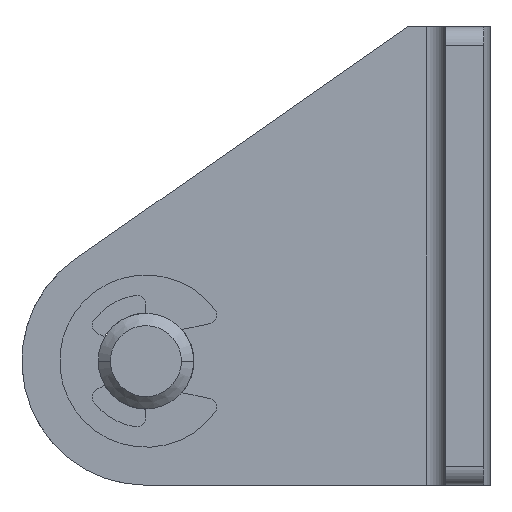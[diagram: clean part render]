
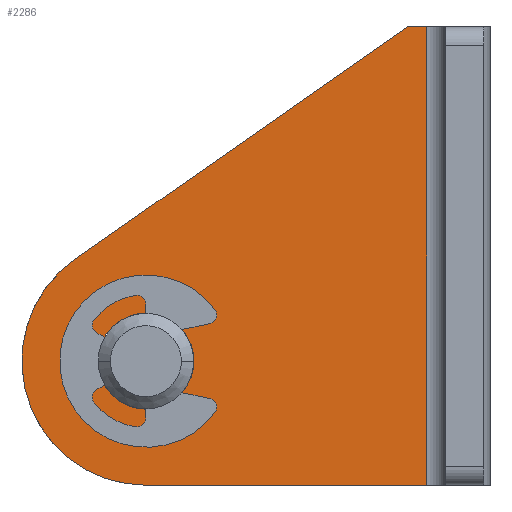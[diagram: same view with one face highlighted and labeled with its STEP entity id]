
A CAD part, left-side view. The second image highlights one B-rep face of the part: STEP entity #2286.
In plain terms, the highlighted planar face has unit normal (-1, 0, 0) as drawn and (1, 0, 0) by its records, which use the part's own axes.
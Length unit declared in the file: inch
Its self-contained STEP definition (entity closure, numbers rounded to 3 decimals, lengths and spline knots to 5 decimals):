
#1736=CARTESIAN_POINT('',(0.0625,0.,0.));
#1737=DIRECTION('',(1.,0.,0.));
#1738=DIRECTION('',(0.,0.,1.));
#1739=AXIS2_PLACEMENT_3D('',#1736,#1737,#1738);
#1744=CARTESIAN_POINT('',(0.0625,0.,0.));
#1745=DIRECTION('',(1.,0.,0.));
#1746=DIRECTION('',(0.,0.,-1.));
#1747=AXIS2_PLACEMENT_3D('',#1744,#1745,#1746);
#1752=DIRECTION('',(0.,0.,-1.));
#1753=VECTOR('',#1752,0.75);
#1754=CARTESIAN_POINT('',(0.0625,-0.45925,0.203));
#1755=LINE('',#1754,#1753);
#1759=DIRECTION('',(0.,1.,0.));
#1760=VECTOR('',#1759,0.45925);
#1761=CARTESIAN_POINT('',(0.0625,-0.45925,0.203));
#1762=LINE('',#1761,#1760);
#1766=CARTESIAN_POINT('',(0.0625,0.,0.));
#1767=DIRECTION('',(-1.,0.,0.));
#1768=DIRECTION('',(0.,0.,1.));
#1769=AXIS2_PLACEMENT_3D('',#1766,#1767,#1768);
#1774=DIRECTION('',(0.,-0.82,-0.573));
#1775=VECTOR('',#1774,0.66422);
#1776=CARTESIAN_POINT('',(0.0625,0.11633,-0.16636));
#1777=LINE('',#1776,#1775);
#1781=DIRECTION('',(0.,-1.,0.));
#1782=VECTOR('',#1781,0.03125);
#1783=CARTESIAN_POINT('',(0.0625,-0.428,-0.547));
#1784=LINE('',#1783,#1782);
#2139=CARTESIAN_POINT('',(0.0625,0.,0.0785));
#2140=CARTESIAN_POINT('',(0.0625,0.,-0.0785));
#2141=VERTEX_POINT('',#2139);
#2142=VERTEX_POINT('',#2140);
#2143=CARTESIAN_POINT('',(0.0625,0.,0.203));
#2144=CARTESIAN_POINT('',(0.0625,0.11633,-0.16636));
#2145=VERTEX_POINT('',#2143);
#2146=VERTEX_POINT('',#2144);
#2147=CARTESIAN_POINT('',(0.0625,-0.428,-0.547));
#2148=VERTEX_POINT('',#2147);
#2197=CARTESIAN_POINT('',(0.0625,-0.45925,0.203));
#2198=CARTESIAN_POINT('',(0.0625,-0.45925,-0.547));
#2199=VERTEX_POINT('',#2197);
#2200=VERTEX_POINT('',#2198);
#2265=CARTESIAN_POINT('',(0.0625,0.,0.));
#2266=DIRECTION('',(-1.,0.,0.));
#2267=DIRECTION('',(0.,0.,1.));
#2268=AXIS2_PLACEMENT_3D('',#2265,#2266,#2267);
#2269=PLANE('',#2268);
#2271=ORIENTED_EDGE('',*,*,#2270,.F.);
#2273=ORIENTED_EDGE('',*,*,#2272,.T.);
#2275=ORIENTED_EDGE('',*,*,#2274,.T.);
#2277=ORIENTED_EDGE('',*,*,#2276,.T.);
#2279=ORIENTED_EDGE('',*,*,#2278,.T.);
#2280=EDGE_LOOP('',(#2271,#2273,#2275,#2277,#2279));
#2281=FACE_OUTER_BOUND('',#2280,.F.);
#2282=ORIENTED_EDGE('',*,*,#2245,.T.);
#2283=ORIENTED_EDGE('',*,*,#2259,.T.);
#2284=EDGE_LOOP('',(#2282,#2283));
#2285=FACE_BOUND('',#2284,.F.);
#2286=ADVANCED_FACE('',(#2281,#2285),#2269,.F.);
#1740=CIRCLE('',#1739,0.0785);
#1748=CIRCLE('',#1747,0.0785);
#1770=CIRCLE('',#1769,0.203);
#2245=EDGE_CURVE('',#2141,#2142,#1740,.T.);
#2259=EDGE_CURVE('',#2142,#2141,#1748,.T.);
#2270=EDGE_CURVE('',#2199,#2200,#1755,.T.);
#2272=EDGE_CURVE('',#2199,#2145,#1762,.T.);
#2274=EDGE_CURVE('',#2145,#2146,#1770,.T.);
#2276=EDGE_CURVE('',#2146,#2148,#1777,.T.);
#2278=EDGE_CURVE('',#2148,#2200,#1784,.T.);
